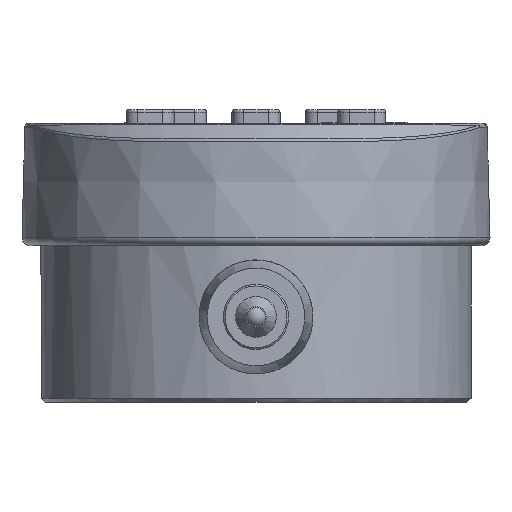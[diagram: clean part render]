
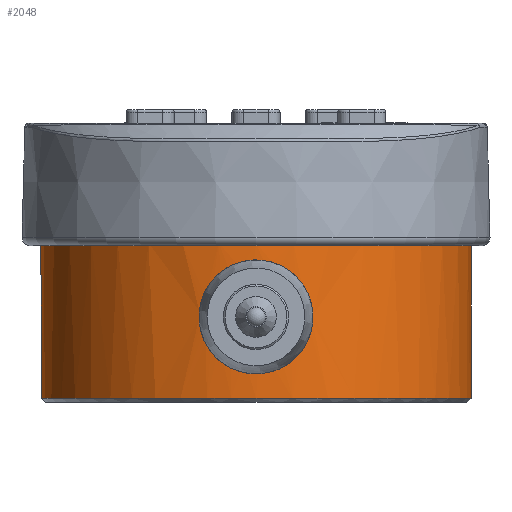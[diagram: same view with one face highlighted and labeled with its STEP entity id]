
A CAD part, front view. The second image highlights one B-rep face of the part: STEP entity #2048.
In plain terms, the highlighted cylindrical face has radius 26.4 mm (diameter 52.8 mm), a full revolution.
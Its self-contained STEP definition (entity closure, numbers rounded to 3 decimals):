
#2048=ADVANCED_FACE('NONE',(#2447,#2448,#2449,#2450),#2355,.T.);
#2355=CYLINDRICAL_SURFACE('',#9356,26.4);
#2447=FACE_BOUND('',#2585,.T.);
#2448=FACE_BOUND('',#2586,.T.);
#2449=FACE_BOUND('',#2587,.T.);
#2450=FACE_BOUND('',#2588,.T.);
#2585=EDGE_LOOP('',(#2982));
#2586=EDGE_LOOP('',(#2983));
#2587=EDGE_LOOP('',(#2984));
#2588=EDGE_LOOP('',(#2985,#2986));
#2982=ORIENTED_EDGE('',*,*,#6413,.T.);
#2983=ORIENTED_EDGE('',*,*,#6417,.T.);
#2984=ORIENTED_EDGE('',*,*,#6418,.T.);
#2985=ORIENTED_EDGE('',*,*,#6419,.T.);
#2986=ORIENTED_EDGE('',*,*,#6420,.T.);
#5119=VERTEX_POINT('',#11454);
#5123=VERTEX_POINT('',#11467);
#5124=VERTEX_POINT('',#11486);
#5125=VERTEX_POINT('',#11505);
#5126=VERTEX_POINT('',#11506);
#6413=EDGE_CURVE('',#5119,#5119,#8393,.T.);
#6417=EDGE_CURVE('',#5123,#5123,#7927,.T.);
#6418=EDGE_CURVE('',#5124,#5124,#8394,.T.);
#6419=EDGE_CURVE('',#5125,#5126,#8395,.T.);
#6420=EDGE_CURVE('',#5126,#5125,#8396,.T.);
#7927=CIRCLE('',#9355,26.4);
#8393=B_SPLINE_CURVE_WITH_KNOTS('',3,(#11436,#11437,#11438,#11439,#11440,
#11441,#11442,#11443,#11444,#11445,#11446,#11447,#11448,#11449,#11450,#11451,
#11452,#11453),.UNSPECIFIED.,.T.,.F.,(2,2,2,2,2,2,2,2,2,2,2),(-0.125,0.,
0.125,0.25,0.375,0.5,0.625,0.75,0.875,1.,1.125),.UNSPECIFIED.);
#8394=B_SPLINE_CURVE_WITH_KNOTS('',3,(#11468,#11469,#11470,#11471,#11472,
#11473,#11474,#11475,#11476,#11477,#11478,#11479,#11480,#11481,#11482,#11483,
#11484,#11485),.UNSPECIFIED.,.T.,.F.,(2,2,2,2,2,2,2,2,2,2,2),(-0.125,0.,
0.125,0.25,0.375,0.5,0.625,0.75,0.875,1.,1.125),.UNSPECIFIED.);
#8395=B_SPLINE_CURVE_WITH_KNOTS('',3,(#11487,#11488,#11489,#11490,#11491,
#11492,#11493,#11494,#11495,#11496,#11497,#11498,#11499,#11500,#11501,#11502,
#11503,#11504),.UNSPECIFIED.,.F.,.F.,(4,2,2,2,2,2,2,2,4),(0.,0.125,0.25,
0.375,0.5,0.625,0.75,0.875,1.),.UNSPECIFIED.);
#8396=B_SPLINE_CURVE_WITH_KNOTS('',3,(#11507,#11508,#11509,#11510,#11511,
#11512,#11513,#11514,#11515,#11516,#11517,#11518,#11519,#11520,#11521,#11522,
#11523,#11524),.UNSPECIFIED.,.F.,.F.,(4,2,2,2,2,2,2,2,4),(0.,0.125,0.25,
0.375,0.5,0.625,0.75,0.875,1.),.UNSPECIFIED.);
#9355=AXIS2_PLACEMENT_3D('',#11466,#9953,#9954);
#9356=AXIS2_PLACEMENT_3D('',#11525,#9955,#9956);
#9953=DIRECTION('',(0.,0.,-1.));
#9954=DIRECTION('',(1.,0.,0.));
#9955=DIRECTION('',(0.,0.,1.));
#9956=DIRECTION('',(1.,0.,0.));
#11436=CARTESIAN_POINT('',(-173.5,-16.517,-48.65));
#11437=CARTESIAN_POINT('',(-173.105,-16.625,-44.955));
#11438=CARTESIAN_POINT('',(-172.157,-16.897,-43.246));
#11439=CARTESIAN_POINT('',(-169.33,-17.375,-40.96));
#11440=CARTESIAN_POINT('',(-167.429,-17.546,-40.392));
#11441=CARTESIAN_POINT('',(-163.781,-17.444,-40.778));
#11442=CARTESIAN_POINT('',(-162.055,-17.181,-41.717));
#11443=CARTESIAN_POINT('',(-159.747,-16.695,-44.569));
#11444=CARTESIAN_POINT('',(-159.185,-16.517,-46.442));
#11445=CARTESIAN_POINT('',(-159.579,-16.625,-50.136));
#11446=CARTESIAN_POINT('',(-160.527,-16.897,-51.846));
#11447=CARTESIAN_POINT('',(-163.354,-17.375,-54.132));
#11448=CARTESIAN_POINT('',(-165.255,-17.546,-54.701));
#11449=CARTESIAN_POINT('',(-168.903,-17.444,-54.314));
#11450=CARTESIAN_POINT('',(-170.63,-17.181,-53.376));
#11451=CARTESIAN_POINT('',(-172.938,-16.695,-50.523));
#11452=CARTESIAN_POINT('',(-173.5,-16.517,-48.65));
#11453=CARTESIAN_POINT('',(-173.105,-16.625,-44.955));
#11454=CARTESIAN_POINT('',(-173.303,-16.571,-46.803));
#11466=CARTESIAN_POINT('',(-166.342,8.895,-38.446));
#11467=CARTESIAN_POINT('',(-139.942,8.895,-38.446));
#11468=CARTESIAN_POINT('',(-174.494,34.021,-48.964));
#11469=CARTESIAN_POINT('',(-172.733,34.526,-52.802));
#11470=CARTESIAN_POINT('',(-171.104,34.936,-54.306));
#11471=CARTESIAN_POINT('',(-167.192,35.354,-55.771));
#11472=CARTESIAN_POINT('',(-164.911,35.325,-55.689));
#11473=CARTESIAN_POINT('',(-161.115,34.843,-53.952));
#11474=CARTESIAN_POINT('',(-159.594,34.429,-52.334));
#11475=CARTESIAN_POINT('',(-158.11,33.99,-48.38));
#11476=CARTESIAN_POINT('',(-158.19,34.021,-46.132));
#11477=CARTESIAN_POINT('',(-159.95,34.526,-42.293));
#11478=CARTESIAN_POINT('',(-161.579,34.936,-40.788));
#11479=CARTESIAN_POINT('',(-165.491,35.354,-39.322));
#11480=CARTESIAN_POINT('',(-167.773,35.325,-39.403));
#11481=CARTESIAN_POINT('',(-171.57,34.843,-41.141));
#11482=CARTESIAN_POINT('',(-173.091,34.429,-42.76));
#11483=CARTESIAN_POINT('',(-174.574,33.99,-46.714));
#11484=CARTESIAN_POINT('',(-174.494,34.021,-48.964));
#11485=CARTESIAN_POINT('',(-172.733,34.526,-52.802));
#11486=CARTESIAN_POINT('',(-173.613,34.274,-50.883));
#11487=CARTESIAN_POINT('',(-166.342,35.295,-57.545));
#11488=CARTESIAN_POINT('',(-169.798,35.295,-57.545));
#11489=CARTESIAN_POINT('',(-173.252,34.608,-57.545));
#11490=CARTESIAN_POINT('',(-179.638,31.963,-57.545));
#11491=CARTESIAN_POINT('',(-182.566,30.006,-57.545));
#11492=CARTESIAN_POINT('',(-187.453,25.119,-57.545));
#11493=CARTESIAN_POINT('',(-189.41,22.19,-57.545));
#11494=CARTESIAN_POINT('',(-192.055,15.805,-57.545));
#11495=CARTESIAN_POINT('',(-192.742,12.351,-57.545));
#11496=CARTESIAN_POINT('',(-192.742,5.439,-57.545));
#11497=CARTESIAN_POINT('',(-192.055,1.985,-57.545));
#11498=CARTESIAN_POINT('',(-189.41,-4.401,-57.545));
#11499=CARTESIAN_POINT('',(-187.453,-7.329,-57.545));
#11500=CARTESIAN_POINT('',(-182.566,-12.216,-57.545));
#11501=CARTESIAN_POINT('',(-179.638,-14.173,-57.545));
#11502=CARTESIAN_POINT('',(-173.252,-16.818,-57.545));
#11503=CARTESIAN_POINT('',(-169.798,-17.505,-57.545));
#11504=CARTESIAN_POINT('',(-166.342,-17.505,-57.545));
#11505=CARTESIAN_POINT('',(-166.342,35.295,-57.545));
#11506=CARTESIAN_POINT('',(-166.342,-17.505,-57.545));
#11507=CARTESIAN_POINT('',(-166.342,-17.505,-57.545));
#11508=CARTESIAN_POINT('',(-162.887,-17.505,-57.545));
#11509=CARTESIAN_POINT('',(-159.432,-16.818,-57.545));
#11510=CARTESIAN_POINT('',(-153.047,-14.173,-57.545));
#11511=CARTESIAN_POINT('',(-150.118,-12.216,-57.545));
#11512=CARTESIAN_POINT('',(-145.231,-7.329,-57.545));
#11513=CARTESIAN_POINT('',(-143.274,-4.401,-57.545));
#11514=CARTESIAN_POINT('',(-140.629,1.985,-57.545));
#11515=CARTESIAN_POINT('',(-139.942,5.439,-57.545));
#11516=CARTESIAN_POINT('',(-139.942,12.351,-57.545));
#11517=CARTESIAN_POINT('',(-140.629,15.805,-57.545));
#11518=CARTESIAN_POINT('',(-143.274,22.19,-57.545));
#11519=CARTESIAN_POINT('',(-145.231,25.119,-57.545));
#11520=CARTESIAN_POINT('',(-150.118,30.006,-57.545));
#11521=CARTESIAN_POINT('',(-153.047,31.963,-57.545));
#11522=CARTESIAN_POINT('',(-159.432,34.608,-57.545));
#11523=CARTESIAN_POINT('',(-162.887,35.295,-57.545));
#11524=CARTESIAN_POINT('',(-166.342,35.295,-57.545));
#11525=CARTESIAN_POINT('',(-166.342,8.895,-56.546));
